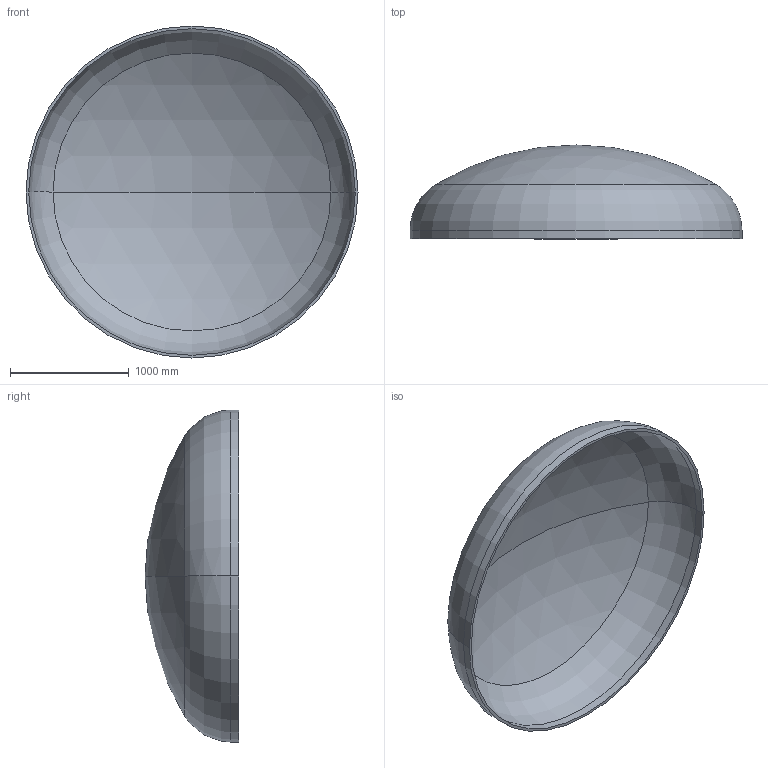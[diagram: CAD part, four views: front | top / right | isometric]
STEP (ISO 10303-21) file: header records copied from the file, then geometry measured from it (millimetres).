
FILE_DESCRIPTION (( 'STEP AP203' ), '1' );
FILE_NAME ('DIN 28013 Korbbogenform_-_Boden DIN 28013 - 2800 x 70 - I - s=23.step', '2016-07-01T16:48:30', ( '' ), ( '' ), 'SwSTEP 2.0', 'SolidWorks 2013', '' );
FILE_SCHEMA (( 'CONFIG_CONTROL_DESIGN' ));
Length unit declared in the file: millimetre
Products named in the file (1): DIN 28013 Korbbogenform_-_Boden DIN 28013 - 2800 x 70 - I - s=23
Bounding box: 2800 x 790.5 x 2800 mm (x, y, z)
Volume: 207968051.8 mm3; surface area: 18285936.2 mm2
Topology: 1 solids, 1 shells, 13 faces, 24 edges, 14 vertices
Faces by surface type: torus 4, cylinder 4, sphere 4, plane 1
Entity records: 407 total; most frequent: DIRECTION 72, CARTESIAN_POINT 52, ORIENTED_EDGE 48, AXIS2_PLACEMENT_3D 34, EDGE_CURVE 24, CIRCLE 20, EDGE_LOOP 14, VERTEX_POINT 14
